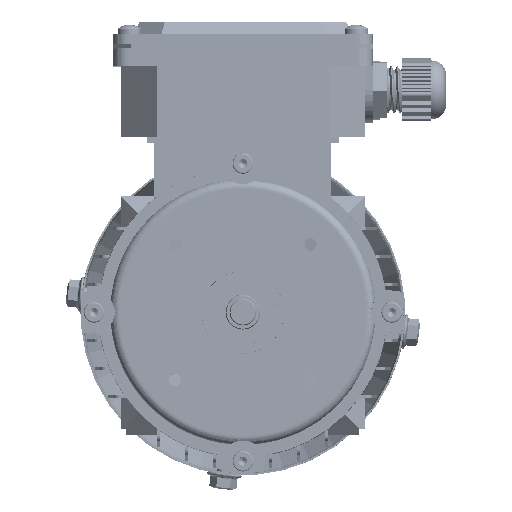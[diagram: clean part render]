
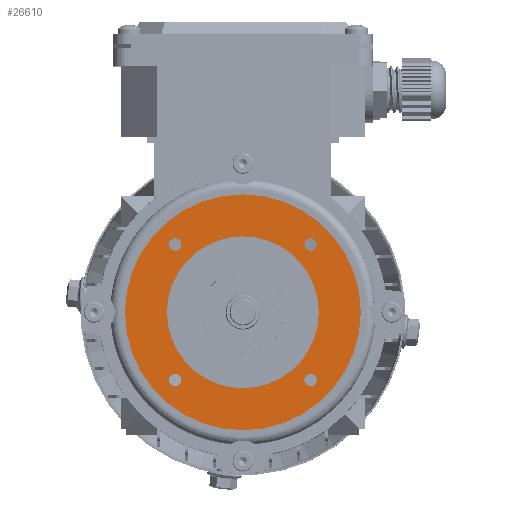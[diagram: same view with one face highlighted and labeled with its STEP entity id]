
A CAD part, top view. The second image highlights one B-rep face of the part: STEP entity #26610.
In plain terms, the highlighted planar face has unit normal (0, 0, 1).
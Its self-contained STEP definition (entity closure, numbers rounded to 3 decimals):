
#2494 = DIRECTION ( 'NONE',  ( 0., 0., 1. ) ) ;
#4250 = CARTESIAN_POINT ( 'NONE',  ( -25.081, 22.981, 8. ) ) ;
#4965 = DIRECTION ( 'NONE',  ( 0., 0., 1. ) ) ;
#5363 = AXIS2_PLACEMENT_3D ( 'NONE', #18457, #86714, #28245 ) ;
#7364 = CIRCLE ( 'NONE', #66275, 2.1 ) ;
#7739 = EDGE_LOOP ( 'NONE', ( #48734, #21526 ) ) ;
#8322 = EDGE_CURVE ( 'NONE', #103972, #41155, #83362, .T. ) ;
#10455 = CARTESIAN_POINT ( 'NONE',  ( -20.881, 22.981, 8. ) ) ;
#11774 = FACE_BOUND ( 'NONE', #7739, .T. ) ;
#12026 = VERTEX_POINT ( 'NONE', #39910 ) ;
#12159 = EDGE_LOOP ( 'NONE', ( #22426, #63373 ) ) ;
#12750 = AXIS2_PLACEMENT_3D ( 'NONE', #75034, #16614, #84871 ) ;
#13155 = DIRECTION ( 'NONE',  ( 0., 0., 1. ) ) ;
#13378 = CIRCLE ( 'NONE', #84409, 2.1 ) ;
#13682 = DIRECTION ( 'NONE',  ( 0., 0., 1. ) ) ;
#16614 = DIRECTION ( 'NONE',  ( 0., 0., 1. ) ) ;
#17138 = VERTEX_POINT ( 'NONE', #71324 ) ;
#18031 = EDGE_LOOP ( 'NONE', ( #81587, #26933 ) ) ;
#18457 = CARTESIAN_POINT ( 'NONE',  ( 22.981, 22.981, 8. ) ) ;
#18988 = DIRECTION ( 'NONE',  ( 0., 0., 1. ) ) ;
#19799 = AXIS2_PLACEMENT_3D ( 'NONE', #89774, #31256, #99617 ) ;
#20841 = EDGE_CURVE ( 'NONE', #113187, #95991, #53953, .T. ) ;
#21526 = ORIENTED_EDGE ( 'NONE', *, *, #114172, .F. ) ;
#22426 = ORIENTED_EDGE ( 'NONE', *, *, #118389, .T. ) ;
#25692 = PLANE ( 'NONE',  #27992 ) ;
#25801 = EDGE_CURVE ( 'NONE', #41547, #53397, #7364, .T. ) ;
#26331 = DIRECTION ( 'NONE',  ( 0., 0., 1. ) ) ;
#26610 = ADVANCED_FACE ( 'NONE', ( #60590, #86576, #63665, #11774, #34625, #112604 ), #25692, .T. ) ;
#26933 = ORIENTED_EDGE ( 'NONE', *, *, #64116, .F. ) ;
#27992 = AXIS2_PLACEMENT_3D ( 'NONE', #84144, #98527, #120838 ) ;
#28245 = DIRECTION ( 'NONE',  ( 1., 0., 0. ) ) ;
#29163 = CIRCLE ( 'NONE', #69841, 25.75 ) ;
#31256 = DIRECTION ( 'NONE',  ( 0., 0., 1. ) ) ;
#34625 = FACE_OUTER_BOUND ( 'NONE', #12159, .T. ) ;
#37279 = CARTESIAN_POINT ( 'NONE',  ( -25.081, -22.981, 8. ) ) ;
#37525 = EDGE_CURVE ( 'NONE', #12026, #49198, #13378, .T. ) ;
#38795 = ORIENTED_EDGE ( 'NONE', *, *, #37525, .F. ) ;
#39910 = CARTESIAN_POINT ( 'NONE',  ( -20.881, -22.981, 8. ) ) ;
#41155 = VERTEX_POINT ( 'NONE', #66693 ) ;
#41425 = CARTESIAN_POINT ( 'NONE',  ( -22.981, 22.981, 8. ) ) ;
#41547 = VERTEX_POINT ( 'NONE', #115674 ) ;
#42400 = CIRCLE ( 'NONE', #52651, 40. ) ;
#48657 = VERTEX_POINT ( 'NONE', #59608 ) ;
#48734 = ORIENTED_EDGE ( 'NONE', *, *, #25801, .F. ) ;
#48769 = ORIENTED_EDGE ( 'NONE', *, *, #57329, .F. ) ;
#48861 = EDGE_CURVE ( 'NONE', #48657, #104918, #42400, .T. ) ;
#49198 = VERTEX_POINT ( 'NONE', #37279 ) ;
#49432 = CIRCLE ( 'NONE', #12750, 2.1 ) ;
#51270 = DIRECTION ( 'NONE',  ( 1., 0., 0. ) ) ;
#52651 = AXIS2_PLACEMENT_3D ( 'NONE', #53154, #121496, #62979 ) ;
#53154 = CARTESIAN_POINT ( 'NONE',  ( 0., 0., 8. ) ) ;
#53397 = VERTEX_POINT ( 'NONE', #95425 ) ;
#53919 = ORIENTED_EDGE ( 'NONE', *, *, #70721, .F. ) ;
#53953 = CIRCLE ( 'NONE', #96994, 2.1 ) ;
#54583 = CIRCLE ( 'NONE', #57213, 40. ) ;
#54677 = EDGE_LOOP ( 'NONE', ( #54761, #86751 ) ) ;
#54703 = AXIS2_PLACEMENT_3D ( 'NONE', #77443, #18988, #87254 ) ;
#54761 = ORIENTED_EDGE ( 'NONE', *, *, #8322, .F. ) ;
#56601 = DIRECTION ( 'NONE',  ( 0., 0., 1. ) ) ;
#57213 = AXIS2_PLACEMENT_3D ( 'NONE', #60981, #2494, #70793 ) ;
#57329 = EDGE_CURVE ( 'NONE', #17138, #98309, #71224, .T. ) ;
#58818 = AXIS2_PLACEMENT_3D ( 'NONE', #72106, #13682, #81961 ) ;
#59608 = CARTESIAN_POINT ( 'NONE',  ( -40., 0., 8. ) ) ;
#60590 = FACE_BOUND ( 'NONE', #18031, .T. ) ;
#60981 = CARTESIAN_POINT ( 'NONE',  ( 0., 0., 8. ) ) ;
#62979 = DIRECTION ( 'NONE',  ( 1., 0., 0. ) ) ;
#63373 = ORIENTED_EDGE ( 'NONE', *, *, #48861, .T. ) ;
#63438 = CARTESIAN_POINT ( 'NONE',  ( -22.981, -22.981, 8. ) ) ;
#63665 = FACE_BOUND ( 'NONE', #88442, .T. ) ;
#64116 = EDGE_CURVE ( 'NONE', #95991, #113187, #70130, .T. ) ;
#65069 = EDGE_LOOP ( 'NONE', ( #48769, #109118 ) ) ;
#66275 = AXIS2_PLACEMENT_3D ( 'NONE', #115171, #56601, #124957 ) ;
#66693 = CARTESIAN_POINT ( 'NONE',  ( -25.75, 0., 8. ) ) ;
#69841 = AXIS2_PLACEMENT_3D ( 'NONE', #71590, #13155, #81431 ) ;
#70130 = CIRCLE ( 'NONE', #104144, 2.1 ) ;
#70721 = EDGE_CURVE ( 'NONE', #49198, #12026, #83938, .T. ) ;
#70793 = DIRECTION ( 'NONE',  ( 1., 0., 0. ) ) ;
#71224 = CIRCLE ( 'NONE', #5363, 2.1 ) ;
#71324 = CARTESIAN_POINT ( 'NONE',  ( 25.081, 22.981, 8. ) ) ;
#71590 = CARTESIAN_POINT ( 'NONE',  ( 0., 0., 8. ) ) ;
#72106 = CARTESIAN_POINT ( 'NONE',  ( 22.981, 22.981, 8. ) ) ;
#72526 = CARTESIAN_POINT ( 'NONE',  ( 20.881, 22.981, 8. ) ) ;
#73240 = DIRECTION ( 'NONE',  ( 1., 0., 0. ) ) ;
#75034 = CARTESIAN_POINT ( 'NONE',  ( 22.981, -22.981, 8. ) ) ;
#77443 = CARTESIAN_POINT ( 'NONE',  ( -22.981, -22.981, 8. ) ) ;
#81431 = DIRECTION ( 'NONE',  ( 1., 0., 0. ) ) ;
#81587 = ORIENTED_EDGE ( 'NONE', *, *, #20841, .F. ) ;
#81961 = DIRECTION ( 'NONE',  ( 1., 0., 0. ) ) ;
#83362 = CIRCLE ( 'NONE', #19799, 25.75 ) ;
#83938 = CIRCLE ( 'NONE', #54703, 2.1 ) ;
#84144 = CARTESIAN_POINT ( 'NONE',  ( 25.75, 0., 8. ) ) ;
#84409 = AXIS2_PLACEMENT_3D ( 'NONE', #63438, #4965, #73240 ) ;
#84796 = CARTESIAN_POINT ( 'NONE',  ( -22.981, 22.981, 8. ) ) ;
#84871 = DIRECTION ( 'NONE',  ( 1., 0., 0. ) ) ;
#85637 = EDGE_CURVE ( 'NONE', #98309, #17138, #104615, .T. ) ;
#86576 = FACE_BOUND ( 'NONE', #65069, .T. ) ;
#86714 = DIRECTION ( 'NONE',  ( 0., 0., 1. ) ) ;
#86751 = ORIENTED_EDGE ( 'NONE', *, *, #110286, .F. ) ;
#87254 = DIRECTION ( 'NONE',  ( 1., 0., 0. ) ) ;
#88442 = EDGE_LOOP ( 'NONE', ( #38795, #53919 ) ) ;
#89774 = CARTESIAN_POINT ( 'NONE',  ( 0., 0., 8. ) ) ;
#94613 = DIRECTION ( 'NONE',  ( 1., 0., 0. ) ) ;
#95425 = CARTESIAN_POINT ( 'NONE',  ( 20.881, -22.981, 8. ) ) ;
#95991 = VERTEX_POINT ( 'NONE', #4250 ) ;
#96994 = AXIS2_PLACEMENT_3D ( 'NONE', #41425, #109808, #51270 ) ;
#98309 = VERTEX_POINT ( 'NONE', #72526 ) ;
#98527 = DIRECTION ( 'NONE',  ( 0., 0., 1. ) ) ;
#99617 = DIRECTION ( 'NONE',  ( 1., 0., 0. ) ) ;
#103972 = VERTEX_POINT ( 'NONE', #117853 ) ;
#104144 = AXIS2_PLACEMENT_3D ( 'NONE', #84796, #26331, #94613 ) ;
#104615 = CIRCLE ( 'NONE', #58818, 2.1 ) ;
#104918 = VERTEX_POINT ( 'NONE', #115882 ) ;
#109118 = ORIENTED_EDGE ( 'NONE', *, *, #85637, .F. ) ;
#109808 = DIRECTION ( 'NONE',  ( 0., 0., 1. ) ) ;
#110286 = EDGE_CURVE ( 'NONE', #41155, #103972, #29163, .T. ) ;
#112604 = FACE_BOUND ( 'NONE', #54677, .T. ) ;
#113187 = VERTEX_POINT ( 'NONE', #10455 ) ;
#114172 = EDGE_CURVE ( 'NONE', #53397, #41547, #49432, .T. ) ;
#115171 = CARTESIAN_POINT ( 'NONE',  ( 22.981, -22.981, 8. ) ) ;
#115674 = CARTESIAN_POINT ( 'NONE',  ( 25.081, -22.981, 8. ) ) ;
#115882 = CARTESIAN_POINT ( 'NONE',  ( 40., 0., 8. ) ) ;
#117853 = CARTESIAN_POINT ( 'NONE',  ( 25.75, 0., 8. ) ) ;
#118389 = EDGE_CURVE ( 'NONE', #104918, #48657, #54583, .T. ) ;
#120838 = DIRECTION ( 'NONE',  ( 1., 0., 0. ) ) ;
#121496 = DIRECTION ( 'NONE',  ( 0., 0., 1. ) ) ;
#124957 = DIRECTION ( 'NONE',  ( 1., 0., 0. ) ) ;
